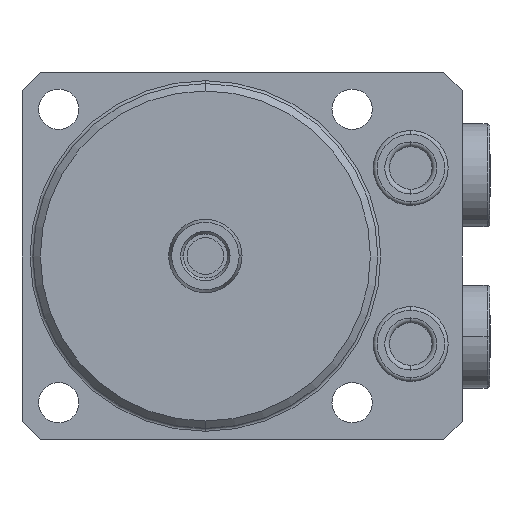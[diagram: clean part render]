
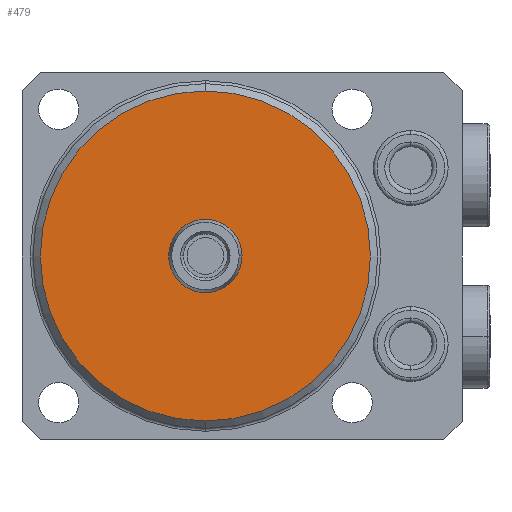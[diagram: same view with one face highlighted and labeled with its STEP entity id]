
A CAD part, front view. The second image highlights one B-rep face of the part: STEP entity #479.
In plain terms, the highlighted planar face has unit normal (0, -1, 0) as drawn and (0, 1, 0) by its records, which use the part's own axes.
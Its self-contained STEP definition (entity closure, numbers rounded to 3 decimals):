
#212=PLANE('',#4913);
#322=FACE_BOUND('',#1139,.F.);
#323=FACE_BOUND('',#1140,.F.);
#479=ADVANCED_FACE('',(#322,#323),#212,.T.);
#1139=EDGE_LOOP('',(#2035,#2036));
#1140=EDGE_LOOP('',(#2037,#2038));
#1425=CIRCLE('',#4797,5.);
#1480=CIRCLE('',#4875,22.5);
#1500=CIRCLE('',#4911,5.);
#1501=CIRCLE('',#4912,22.5);
#2035=ORIENTED_EDGE('',*,*,#3711,.T.);
#2036=ORIENTED_EDGE('',*,*,#3528,.T.);
#2037=ORIENTED_EDGE('',*,*,#3712,.T.);
#2038=ORIENTED_EDGE('',*,*,#3616,.T.);
#3086=VERTEX_POINT('',#7014);
#3087=VERTEX_POINT('',#7015);
#3158=VERTEX_POINT('',#7202);
#3159=VERTEX_POINT('',#7203);
#3528=EDGE_CURVE('',#3086,#3087,#1425,.T.);
#3616=EDGE_CURVE('',#3158,#3159,#1480,.T.);
#3711=EDGE_CURVE('',#3087,#3086,#1500,.T.);
#3712=EDGE_CURVE('',#3159,#3158,#1501,.T.);
#4797=AXIS2_PLACEMENT_3D('',#7013,#5463,#5464);
#4875=AXIS2_PLACEMENT_3D('',#7201,#5651,#5652);
#4911=AXIS2_PLACEMENT_3D('',#7472,#5772,#5773);
#4912=AXIS2_PLACEMENT_3D('',#7473,#5774,#5775);
#4913=AXIS2_PLACEMENT_3D('',#7474,#5776,#5777);
#5463=DIRECTION('',(0.,1.,0.));
#5464=DIRECTION('',(0.,0.,1.));
#5651=DIRECTION('',(0.,-1.,0.));
#5652=DIRECTION('',(0.,0.,1.));
#5772=DIRECTION('',(0.,1.,0.));
#5773=DIRECTION('',(0.,0.,1.));
#5774=DIRECTION('',(0.,-1.,0.));
#5775=DIRECTION('',(0.,0.,1.));
#5776=DIRECTION('',(0.,1.,0.));
#5777=DIRECTION('',(0.,0.,1.));
#7013=CARTESIAN_POINT('',(0.,-39.5,0.));
#7014=CARTESIAN_POINT('',(0.,-39.5,-5.));
#7015=CARTESIAN_POINT('',(0.,-39.5,5.));
#7201=CARTESIAN_POINT('',(0.,-39.5,0.));
#7202=CARTESIAN_POINT('',(0.,-39.5,-22.5));
#7203=CARTESIAN_POINT('',(0.,-39.5,22.5));
#7472=CARTESIAN_POINT('',(0.,-39.5,0.));
#7473=CARTESIAN_POINT('',(0.,-39.5,0.));
#7474=CARTESIAN_POINT('',(0.,-39.5,0.));
